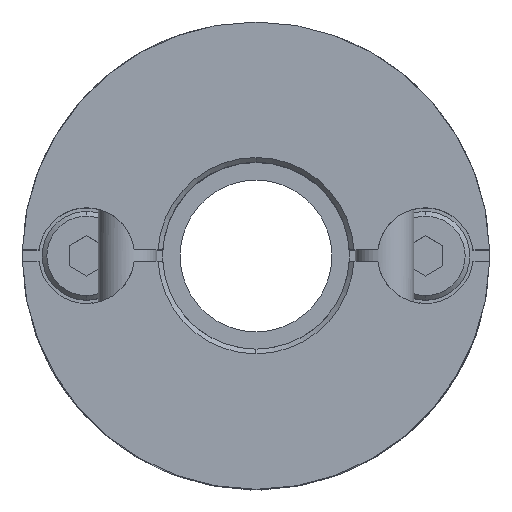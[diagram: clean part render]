
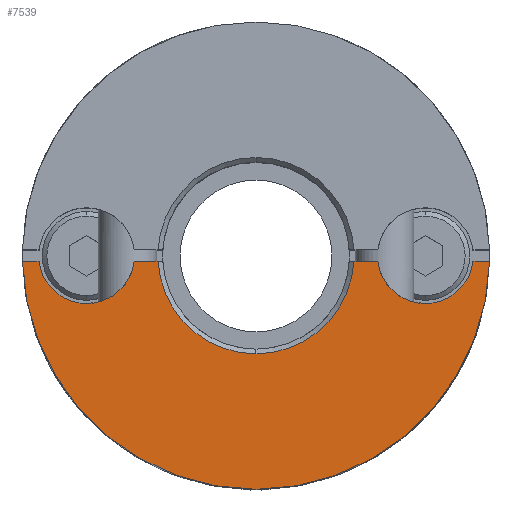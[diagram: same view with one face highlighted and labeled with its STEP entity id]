
A CAD part, top view. The second image highlights one B-rep face of the part: STEP entity #7539.
In plain terms, the highlighted planar face has unit normal (0, 0, 1).
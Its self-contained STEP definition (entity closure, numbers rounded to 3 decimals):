
#809=CARTESIAN_POINT('',(0.,-10.,9.4));
#810=VERTEX_POINT('',#809);
#817=CARTESIAN_POINT('',(-9.997,-0.25,9.4));
#818=VERTEX_POINT('',#817);
#819=CARTESIAN_POINT('',(0.,0.,9.4));
#820=DIRECTION('',(0.0,0.0,-1.0));
#821=DIRECTION('',(0.0,1.0,0.0));
#822=AXIS2_PLACEMENT_3D('',#819,#820,#821);
#823=CIRCLE('',#822,10.0);
#824=EDGE_CURVE('',#810,#818,#823,.T.);
#1024=CARTESIAN_POINT('',(0.,-4.2,9.4));
#1025=VERTEX_POINT('',#1024);
#1033=CARTESIAN_POINT('',(-4.193,-0.25,9.4));
#1034=VERTEX_POINT('',#1033);
#1048=CARTESIAN_POINT('',(0.,0.,9.4));
#1049=DIRECTION('',(0.0,0.0,1.0));
#1050=DIRECTION('',(0.0,-1.0,0.0));
#1051=AXIS2_PLACEMENT_3D('',#1048,#1049,#1050);
#1052=CIRCLE('',#1051,4.2);
#1053=EDGE_CURVE('',#1034,#1025,#1052,.T.);
#1345=CARTESIAN_POINT('',(-7.25,-2.05,9.4));
#1346=VERTEX_POINT('',#1345);
#1362=CARTESIAN_POINT('',(-9.285,-0.25,9.4));
#1363=VERTEX_POINT('',#1362);
#1370=CARTESIAN_POINT('',(-7.25,0.,9.4));
#1371=DIRECTION('',(0.0,0.0,-1.0));
#1372=DIRECTION('',(0.0,1.0,0.0));
#1373=AXIS2_PLACEMENT_3D('',#1370,#1371,#1372);
#1374=CIRCLE('',#1373,2.05);
#1375=EDGE_CURVE('',#1346,#1363,#1374,.T.);
#1693=CARTESIAN_POINT('',(7.25,-2.05,9.4));
#1694=VERTEX_POINT('',#1693);
#1772=CARTESIAN_POINT('',(5.215,-0.25,9.4));
#1773=VERTEX_POINT('',#1772);
#1780=CARTESIAN_POINT('',(7.25,0.,9.4));
#1781=DIRECTION('',(0.0,0.0,-1.0));
#1782=DIRECTION('',(0.0,1.0,0.0));
#1783=AXIS2_PLACEMENT_3D('',#1780,#1781,#1782);
#1784=CIRCLE('',#1783,2.05);
#1785=EDGE_CURVE('',#1694,#1773,#1784,.T.);
#5992=CARTESIAN_POINT('',(9.285,-0.25,9.4));
#5993=VERTEX_POINT('',#5992);
#5994=CARTESIAN_POINT('',(7.25,0.,9.4));
#5995=DIRECTION('',(0.0,0.0,-1.0));
#5996=DIRECTION('',(0.0,1.0,0.0));
#5997=AXIS2_PLACEMENT_3D('',#5994,#5995,#5996);
#5998=CIRCLE('',#5997,2.05);
#5999=EDGE_CURVE('',#5993,#1694,#5998,.T.);
#6444=CARTESIAN_POINT('',(-5.215,-0.25,9.4));
#6445=VERTEX_POINT('',#6444);
#6446=CARTESIAN_POINT('',(-7.25,0.,9.4));
#6447=DIRECTION('',(0.0,0.0,-1.0));
#6448=DIRECTION('',(0.0,1.0,0.0));
#6449=AXIS2_PLACEMENT_3D('',#6446,#6447,#6448);
#6450=CIRCLE('',#6449,2.05);
#6451=EDGE_CURVE('',#6445,#1346,#6450,.T.);
#6574=CARTESIAN_POINT('',(-4.193,-0.25,9.4));
#6575=DIRECTION('',(-1.0,0.0,0.0));
#6576=VECTOR('',#6575,1.023);
#6577=LINE('',#6574,#6576);
#6578=EDGE_CURVE('',#1034,#6445,#6577,.T.);
#6642=CARTESIAN_POINT('',(4.193,-0.25,9.4));
#6643=VERTEX_POINT('',#6642);
#6657=CARTESIAN_POINT('',(5.215,-0.25,9.4));
#6658=DIRECTION('',(-1.0,0.0,0.0));
#6659=VECTOR('',#6658,1.023);
#6660=LINE('',#6657,#6659);
#6661=EDGE_CURVE('',#1773,#6643,#6660,.T.);
#7317=CARTESIAN_POINT('',(9.997,-0.25,9.4));
#7318=VERTEX_POINT('',#7317);
#7319=CARTESIAN_POINT('',(9.997,-0.25,9.4));
#7320=DIRECTION('',(-1.0,0.0,0.0));
#7321=VECTOR('',#7320,0.712);
#7322=LINE('',#7319,#7321);
#7323=EDGE_CURVE('',#7318,#5993,#7322,.T.);
#7423=CARTESIAN_POINT('',(-9.285,-0.25,9.4));
#7424=DIRECTION('',(-1.0,0.0,0.0));
#7425=VECTOR('',#7424,0.712);
#7426=LINE('',#7423,#7425);
#7427=EDGE_CURVE('',#1363,#818,#7426,.T.);
#7508=CARTESIAN_POINT('',(0.,0.909,9.4));
#7509=DIRECTION('',(0.0,0.0,1.0));
#7510=DIRECTION('',(0.0,1.0,0.0));
#7511=AXIS2_PLACEMENT_3D('',#7508,#7509,#7510);
#7512=PLANE('',#7511);
#7513=ORIENTED_EDGE('',*,*,#5999,.T.);
#7514=ORIENTED_EDGE('',*,*,#1785,.T.);
#7515=ORIENTED_EDGE('',*,*,#6661,.T.);
#7516=CARTESIAN_POINT('',(0.,0.,9.4));
#7517=DIRECTION('',(0.0,0.0,1.0));
#7518=DIRECTION('',(0.0,-1.0,0.0));
#7519=AXIS2_PLACEMENT_3D('',#7516,#7517,#7518);
#7520=CIRCLE('',#7519,4.2);
#7521=EDGE_CURVE('',#1025,#6643,#7520,.T.);
#7522=ORIENTED_EDGE('',*,*,#7521,.F.);
#7523=ORIENTED_EDGE('',*,*,#1053,.F.);
#7524=ORIENTED_EDGE('',*,*,#6578,.T.);
#7525=ORIENTED_EDGE('',*,*,#6451,.T.);
#7526=ORIENTED_EDGE('',*,*,#1375,.T.);
#7527=ORIENTED_EDGE('',*,*,#7427,.T.);
#7528=ORIENTED_EDGE('',*,*,#824,.F.);
#7529=CARTESIAN_POINT('',(0.,0.,9.4));
#7530=DIRECTION('',(0.0,0.0,-1.0));
#7531=DIRECTION('',(0.0,1.0,0.0));
#7532=AXIS2_PLACEMENT_3D('',#7529,#7530,#7531);
#7533=CIRCLE('',#7532,10.0);
#7534=EDGE_CURVE('',#7318,#810,#7533,.T.);
#7535=ORIENTED_EDGE('',*,*,#7534,.F.);
#7536=ORIENTED_EDGE('',*,*,#7323,.T.);
#7537=EDGE_LOOP('',(#7513,#7514,#7515,#7522,#7523,#7524,#7525,#7526,#7527,#7528,#7535,#7536));
#7538=FACE_OUTER_BOUND('',#7537,.T.);
#7539=ADVANCED_FACE('',(#7538),#7512,.T.);
